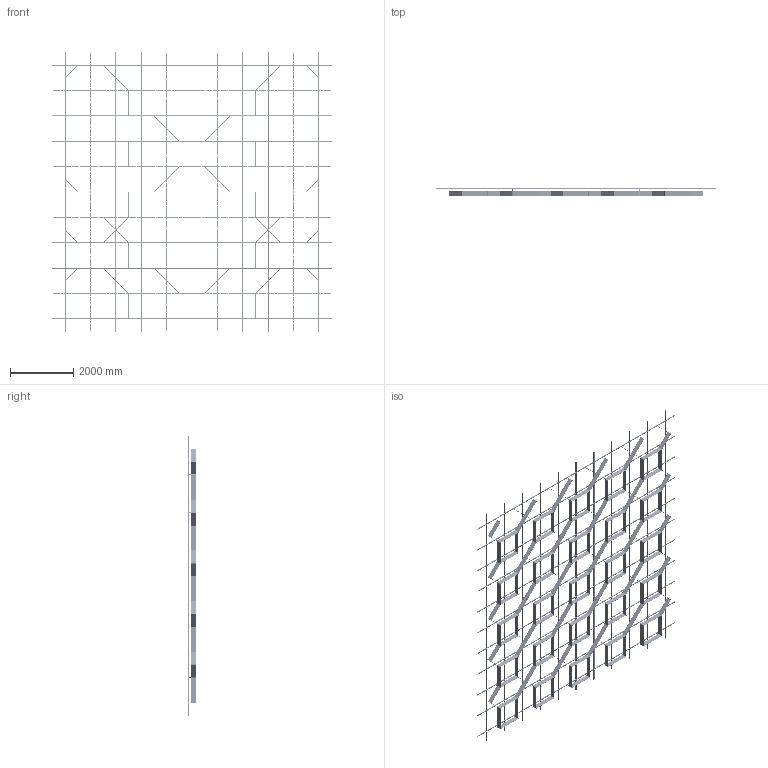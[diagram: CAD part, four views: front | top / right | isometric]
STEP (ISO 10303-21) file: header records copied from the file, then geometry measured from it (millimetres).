
FILE_DESCRIPTION (( 'STEP AP214' ), '1' );
FILE_NAME ('OPT_Var9.STEP', '2024-04-26T06:44:56', ( '' ), ( '' ), 'SwSTEP 2.0', 'SolidWorks 2020', '' );
FILE_SCHEMA (( 'AUTOMOTIVE_DESIGN' ));
Length unit declared in the file: millimetre
Products named in the file (5): Varp9; OPT_Var9; Ñèñòåìà â çîíå 8000õ8000; SS.SEMA.2400 - Ñèìà-ïðîôèëü; SS.SEMA.2400 - Ñèìà-ïðîôèëü — îáðåçàí 1600
Assembly tree (90 placements, depth 3):
  OPT_Var9
    Ñèñòåìà â çîíå 8000õ8000
      SS.SEMA.2400 - Ñèìà-ïðîôèëü  x66
      SS.SEMA.2400 - Ñèìà-ïðîôèëü — îáðåçàí 1600  x22
    Varp9
Bounding box: 8800 x 253 x 8800 mm (x, y, z)
Volume: 173465720.9 mm3; surface area: 73949069.2 mm2
Topology: 848 solids, 848 shells, 20740 faces, 55724 edges, 36680 vertices
Faces by surface type: cylinder 12978, plane 7762
Entity records: 123969 total; most frequent: CARTESIAN_POINT 37994, ORIENTED_EDGE 18296, DIRECTION 10834, EDGE_CURVE 9148, VERTEX_POINT 6088, B_SPLINE_CURVE_WITH_KNOTS 5920, AXIS2_PLACEMENT_3D 5168, EDGE_LOOP 4746
